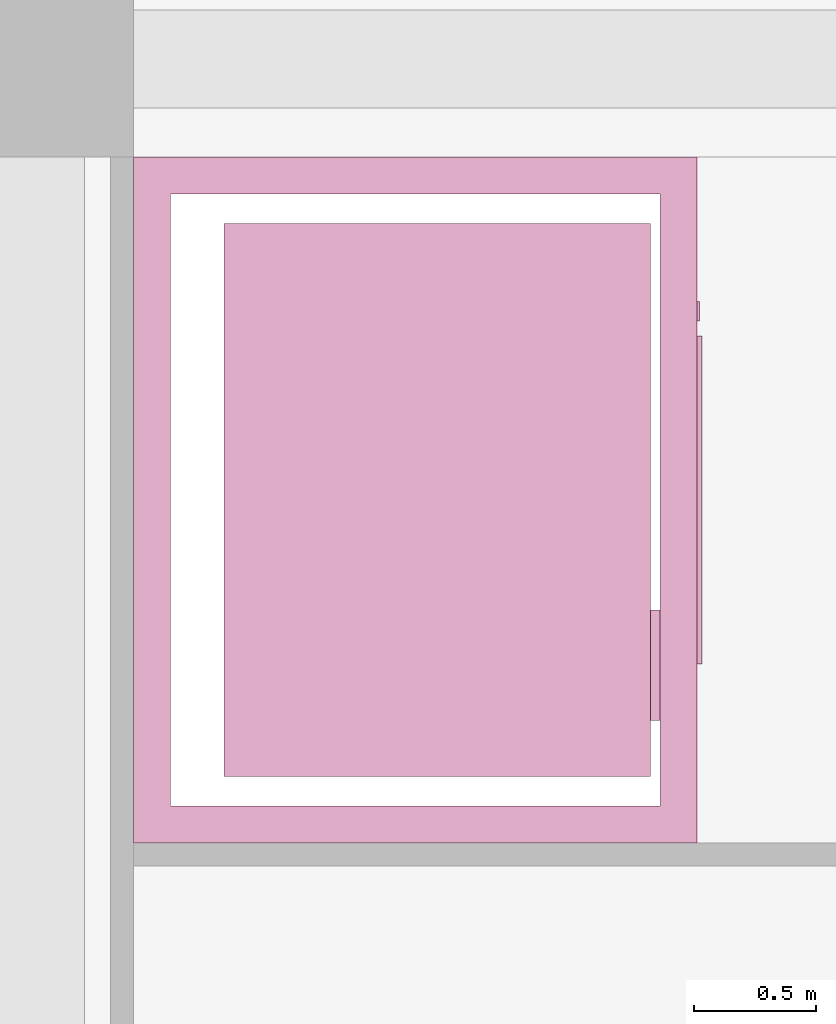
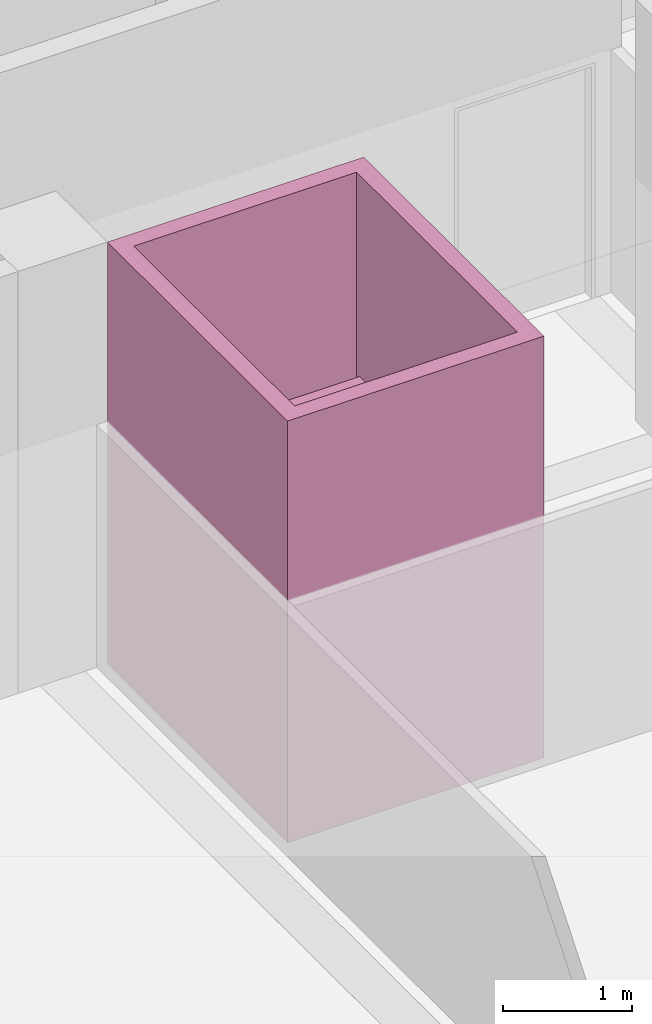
# One storey, part 9 of 14: 1 transport element.
"""IFC2X3 building model written with IfcOpenShell, lengths in millimetres."""

import ifcopenshell
import ifcopenshell.guid

model = None  # the IFC model being written
_history = None  # IfcOwnerHistory: only IFC2X3 demands one
_inside = {}  # id of a spatial element -> (the spatial element, [elements in it])
_under = {}  # id of a project, library or spatial element -> (it, [spatial elements below it])
_declared = {}  # id of a project -> (the project, [libraries it declares])
_typed = {}  # id of a type object -> (the type object, [elements of that type])
_made_of = {}  # id of a material, layer set ... -> (it, [elements and type objects made of it])


def new_model(schema):
    """Start an empty IFC model of exactly this schema.

    Asked for "IFC4X3", IfcOpenShell would pick the latest addendum, in which some entities
    have other attributes; the version numbers below select the first issue.
    IFC2X3 requires an IfcOwnerHistory on every rooted entity: one is made here for all.
    """
    global model, _history
    if schema == "IFC4X3":
        model = ifcopenshell.file(schema_version=(4, 3, 0, 0))
    else:
        model = ifcopenshell.file(schema=schema)
    _inside.clear()
    _under.clear()
    _declared.clear()
    _typed.clear()
    _made_of.clear()
    _history = None
    if model.schema == "IFC2X3":
        org = make("IfcOrganization", Name="unknown")
        user = make(
            "IfcPersonAndOrganization",
            ThePerson=make("IfcPerson", FamilyName="unknown"),
            TheOrganization=org,
        )
        app = make(
            "IfcApplication",
            ApplicationDeveloper=org,
            Version="unknown",
            ApplicationFullName="unknown",
            ApplicationIdentifier="unknown",
        )
        _history = make(
            "IfcOwnerHistory",
            OwningUser=user,
            OwningApplication=app,
            ChangeAction="ADDED",
            CreationDate=0,
        )
    return model


def make(cls, **values):
    """One entity of the class cls with the attributes given. An attribute that is None is left unset."""
    return model.create_entity(
        cls, **{name: value for name, value in values.items() if value is not None}
    )


def entity(cls, *values):
    """Any entity or typed value of the class cls, its attributes in the order of the schema. None: left unset."""
    e = model.create_entity(cls)
    for i, value in enumerate(values):
        if value is not None:
            e[i] = value
    return e


def rooted(cls, **values):
    """An entity with a GlobalId (a new one), such as an element, a storey or a relation."""
    return make(cls, GlobalId=ifcopenshell.guid.new(), OwnerHistory=_history, **values)


def si_unit(unit_type, name, prefix=None):
    """IfcSIUnit, for example si_unit("LENGTHUNIT", "METRE", prefix="MILLI")."""
    return make("IfcSIUnit", UnitType=unit_type, Prefix=prefix, Name=name)


def converted_unit(unit_type, name, factor, base, dimensions=None, offset=None):
    """IfcConversionBasedUnit, such as the inch: factor (a typed value) times the base unit."""
    return make(
        "IfcConversionBasedUnit"
        if offset is None
        else "IfcConversionBasedUnitWithOffset",
        ConversionOffset=offset,
        Dimensions=None
        if dimensions is None
        else entity("IfcDimensionalExponents", *dimensions),
        UnitType=unit_type,
        Name=name,
        ConversionFactor=make(
            "IfcMeasureWithUnit", ValueComponent=factor, UnitComponent=base
        ),
    )


def assignment(units):
    """IfcUnitAssignment: the units of a project."""
    return None if units is None else make("IfcUnitAssignment", Units=units)


def point(xyz):
    """IfcCartesianPoint."""
    return None if xyz is None else make("IfcCartesianPoint", Coordinates=xyz)


def direction(xyz):
    """IfcDirection."""
    return None if xyz is None else make("IfcDirection", DirectionRatios=xyz)


def frame(location, z_axis=None, x_axis=None):
    """IfcAxis2Placement3D, a coordinate frame: its origin and axes. An axis left out is left unset."""
    return make(
        "IfcAxis2Placement3D",
        Location=point(location),
        Axis=direction(z_axis),
        RefDirection=direction(x_axis),
    )


def origin_with_axes():
    """The frame at (0, 0, 0) with the z axis (0, 0, 1) and the x axis (1, 0, 0) written out."""
    return frame((0.0, 0.0, 0.0), z_axis=(0.0, 0.0, 1.0), x_axis=(1.0, 0.0, 0.0))


def place(relative_to, where):
    """IfcLocalPlacement: puts the frame where relative to a parent placement (None: the world)."""
    return make(
        "IfcLocalPlacement", PlacementRelTo=relative_to, RelativePlacement=where
    )


def context(
    kind, dimensions, precision=None, world=None, true_north=None, identifier=None
):
    """IfcGeometricRepresentationContext, for example the 3D "Model" context."""
    return make(
        "IfcGeometricRepresentationContext",
        ContextIdentifier=identifier,
        ContextType=kind,
        CoordinateSpaceDimension=dimensions,
        Precision=precision,
        WorldCoordinateSystem=world,
        TrueNorth=true_north,
    )


def project(units=None, contexts=None):
    """IfcProject with its units and contexts."""
    return rooted(
        "IfcProject",
        Name="project",
        RepresentationContexts=contexts,
        UnitsInContext=assignment(units),
    )


def spatial(cls, under=None, at=None, **own):
    """A site, building, storey or space (cls), placed at a placement, below another one or the project."""
    s = rooted(cls, ObjectPlacement=at, **own)
    if under is not None:
        _under.setdefault(under.id(), (under, []))[1].append(s)
    return s


def faces_of(points, faces, orient=None, outer=None):
    """IfcFace entities. A face is a list of loops; a loop is a list of indices into points, from 0.

    orient and outer hold one flag for each loop. By default every Orientation is true, the
    first loop of a face is its IfcFaceOuterBound and the others are IfcFaceBound.
    """
    made = []
    for i, loops in enumerate(faces):
        bounds = []
        for j, loop in enumerate(loops):
            is_outer = j == 0 if outer is None else outer[i][j]
            bounds.append(
                make(
                    "IfcFaceOuterBound" if is_outer else "IfcFaceBound",
                    Bound=make("IfcPolyLoop", Polygon=[points[k] for k in loop]),
                    Orientation=True if orient is None else orient[i][j],
                )
            )
        made.append(make("IfcFace", Bounds=bounds))
    return made


def faceted_brep(points, faces, orient=None, outer=None, voids=None):
    """IfcFacetedBrep: a solid bounded by flat faces; with voids (closed shells), ...WithVoids."""
    shared = [point(p) for p in points]
    hull = make("IfcClosedShell", CfsFaces=faces_of(shared, faces, orient, outer))
    if voids is None:
        return make("IfcFacetedBrep", Outer=hull)
    return make(
        "IfcFacetedBrepWithVoids",
        Outer=hull,
        Voids=[
            make(cls, CfsFaces=faces_of(shared, fs, o, b)) for cls, fs, o, b in voids
        ],
    )


def shape(context_of_items, identifier, shape_type, items):
    """IfcShapeRepresentation: the items that make up one representation, for example the "Body"."""
    return make(
        "IfcShapeRepresentation",
        ContextOfItems=context_of_items,
        RepresentationIdentifier=identifier,
        RepresentationType=shape_type,
        Items=items,
    )


def material(Name=None, Category=None):
    """IfcMaterial."""
    return make("IfcMaterial", Name=Name, Category=Category)


def made_of(thing, what):
    """Note that an element or type object is made of a material, layer set ...; save() writes the relation."""
    if what is not None:
        _made_of.setdefault(what.id(), (what, []))[1].append(thing)
    return thing


def element(
    cls,
    number,
    at=None,
    inside=None,
    cuts=None,
    type_object=None,
    material=None,
    context=None,
    identifier="Body",
    shape_type=None,
    held_by="IfcProductDefinitionShape",
    body=None,
    shapes=None,
    **own,
):
    """One element of the class cls, such as IfcWall. Its Tag is "e" and its number.

    at: its placement. inside: the storey or other place that contains it. cuts: it is an
    opening in that element (IfcRelVoidsElement). A single representation is given by context,
    identifier, shape_type and body (its items); several are given by shapes. held_by: the class
    of the entity that holds the representations. save() writes the other relations.
    """
    e = rooted(cls, Tag="e%d" % number, ObjectPlacement=at, **own)
    if body is not None:
        shapes = [shape(context, identifier, shape_type, body)]
    if shapes is not None:
        e.Representation = make(held_by, Representations=shapes)
    if inside is not None:
        _inside.setdefault(inside.id(), (inside, []))[1].append(e)
    if cuts is not None:
        rooted(
            "IfcRelVoidsElement", RelatingBuildingElement=cuts, RelatedOpeningElement=e
        )
    if type_object is not None:
        _typed.setdefault(type_object.id(), (type_object, []))[1].append(e)
    return made_of(e, material)


def aggregate(whole, parts):
    """IfcRelAggregates: a whole, such as a stair, and the parts it consists of."""
    return rooted("IfcRelAggregates", RelatingObject=whole, RelatedObjects=parts)


def save(model, path):
    """Write the relations noted so far, then the file.

    IfcRelAggregates (storeys below a building ...), IfcRelContainedInSpatialStructure (elements
    in a storey), IfcRelDefinesByType, IfcRelAssociatesMaterial and IfcRelDeclares: one each for
    every whole, place, type object, material and project.
    """
    for whole, parts in _under.values():
        aggregate(whole, parts)
    for where, things in _inside.values():
        rooted(
            "IfcRelContainedInSpatialStructure",
            RelatedElements=things,
            RelatingStructure=where,
        )
    for kind, things in _typed.values():
        rooted("IfcRelDefinesByType", RelatedObjects=things, RelatingType=kind)
    for what, things in _made_of.values():
        rooted("IfcRelAssociatesMaterial", RelatedObjects=things, RelatingMaterial=what)
    for by, libraries in _declared.values():
        rooted("IfcRelDeclares", RelatingContext=by, RelatedDefinitions=libraries)
    model.write(path)


model = new_model("IFC2X3")

# Units and contexts
model_context = context("Model", 3, precision=1e-05, world=origin_with_axes(), true_north=direction((0.0, 1.0)))
ifc_project = project(units=[si_unit("LENGTHUNIT", "METRE", prefix="MILLI"), si_unit("AREAUNIT", "SQUARE_METRE"), si_unit("VOLUMEUNIT", "CUBIC_METRE"), converted_unit("PLANEANGLEUNIT", "DEGREE", entity("IfcPlaneAngleMeasure", 0.017453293), si_unit("PLANEANGLEUNIT", "RADIAN"), dimensions=[0, 0, 0, 0, 0, 0, 0]), si_unit("SOLIDANGLEUNIT", "STERADIAN"), si_unit("MASSUNIT", "GRAM"), si_unit("TIMEUNIT", "SECOND"), si_unit("THERMODYNAMICTEMPERATUREUNIT", "DEGREE_CELSIUS"), si_unit("LUMINOUSINTENSITYUNIT", "LUMEN")], contexts=[model_context])

# Site, building, storey
site_placement = place(None, origin_with_axes())
site = spatial("IfcSite", under=ifc_project, at=site_placement, Name="\x83T\x83C\x83g", CompositionType="ELEMENT")
building_placement = place(site_placement, origin_with_axes())
building = spatial("IfcBuilding", under=site, at=building_placement, Name="Daitec-Sample 201208", CompositionType="ELEMENT")
storey_placement = place(building_placement, frame((0.0, 0.0, 8000.0), z_axis=(0.0, 0.0, 1.0), x_axis=(1.0, 0.0, 0.0)))
storey = spatial("IfcBuildingStorey", under=building, at=storey_placement, Name="3F", CompositionType="ELEMENT", Elevation=8000.0)

# Transport element
ifc_material = material(Name="\x94w\x8ci")
transport_element_placement = place(storey_placement, frame((27200.0, 15200.0, 0.0), z_axis=(0.0, 0.0, 1.0), x_axis=(0.0, 1.0, 0.0)))
element("IfcTransportElement", 1, at=transport_element_placement, inside=storey, material=ifc_material, Name="O1", OperationType="NOTDEFINED", context=model_context, shape_type="Brep", body=[
    faceted_brep([(950.0, 210.0, 0.0), (500.0, 210.0, 0.0), (500.0, 210.0, 2000.0), (950.0, 210.0, 2000.0), (950.0, 190.0, 0.0), (500.0, 190.0, 0.0), (500.0, 190.0, 2000.0), (950.0, 190.0, 2000.0)], [[[0, 1, 2, 3]], [[1, 0, 4, 5]], [[2, 1, 5, 6]], [[3, 2, 6, 7]], [[0, 3, 7, 4]], [[5, 4, 7, 6]]]),
    faceted_brep([(950.0, 230.0, 0.0), (500.0, 230.0, 0.0), (500.0, 230.0, 2000.0), (950.0, 230.0, 2000.0), (950.0, 210.0, 0.0), (500.0, 210.0, 0.0), (500.0, 210.0, 2000.0), (950.0, 210.0, 2000.0)], [[[0, 1, 2, 3]], [[1, 0, 4, 5]], [[2, 1, 5, 6]], [[3, 2, 6, 7]], [[0, 3, 7, 4]], [[5, 4, 7, 6]]]),
    faceted_brep([(350.0, 270.0, 0.0), (950.0, 270.0, 0.0), (950.0, 230.0, 0.0), (500.0, 230.0, 0.0), (500.0, 190.0, 0.0), (270.0, 190.0, 0.0), (270.0, 1930.0, 0.0), (2530.0, 1930.0, 0.0), (2530.0, 190.0, 0.0), (1850.0, 190.0, 0.0), (1850.0, 270.0, 0.0), (2450.0, 270.0, 0.0), (2450.0, 1850.0, 0.0), (350.0, 1850.0, 0.0), (350.0, 270.0, 2100.0), (2450.0, 270.0, 2100.0), (1850.0, 270.0, 2000.0), (950.0, 270.0, 2000.0), (950.0, 230.0, 2000.0), (500.0, 230.0, 2000.0), (500.0, 190.0, 2000.0), (1850.0, 190.0, 2000.0), (2530.0, 190.0, 2100.0), (270.0, 190.0, 2100.0), (270.0, 1930.0, 2100.0), (2530.0, 1930.0, 2100.0), (2450.0, 1850.0, 2100.0), (350.0, 1850.0, 2100.0)], [[[0, 1, 2, 3, 4, 5, 6, 7, 8, 9, 10, 11, 12, 13]], [[14, 15, 11, 10, 16, 17, 1, 0]], [[1, 17, 18, 2]], [[3, 2, 18, 19]], [[3, 19, 20, 4]], [[20, 21, 9, 8, 22, 23, 5, 4]], [[5, 23, 24, 6]], [[6, 24, 25, 7]], [[7, 25, 22, 8]], [[16, 10, 9, 21]], [[15, 26, 12, 11]], [[26, 27, 13, 12]], [[27, 14, 0, 13]], [[22, 25, 24, 23], [27, 26, 15, 14]], [[17, 16, 21, 20, 19, 18]]]),
    faceted_brep([(270.0, 190.0, -50.0), (2530.0, 190.0, -50.0), (2530.0, 190.0, 0.0), (270.0, 190.0, 0.0), (270.0, 1930.0, -50.0), (2530.0, 1930.0, -50.0), (2530.0, 1930.0, 0.0), (270.0, 1930.0, 0.0)], [[[0, 1, 2, 3]], [[0, 4, 5, 1]], [[1, 5, 6, 2]], [[3, 2, 6, 7]], [[4, 0, 3, 7]], [[5, 4, 7, 6]]]),
    faceted_brep([(270.0, 190.0, 2100.0), (2530.0, 190.0, 2100.0), (2530.0, 190.0, 2150.0), (270.0, 190.0, 2150.0), (270.0, 1930.0, 2100.0), (2530.0, 1930.0, 2100.0), (2530.0, 1930.0, 2150.0), (270.0, 1930.0, 2150.0)], [[[0, 1, 2, 3]], [[0, 4, 5, 1]], [[1, 5, 6, 2]], [[3, 2, 6, 7]], [[4, 0, 3, 7]], [[5, 4, 7, 6]]]),
    faceted_brep([(2450.0, 370.0, 1000.0), (2450.0, 470.0, 1000.0), (2450.0, 470.0, 1075.0), (2450.0, 370.0, 1075.0), (2440.0, 370.0, 1000.0), (2440.0, 470.0, 1000.0), (2440.0, 470.0, 1075.0), (2440.0, 370.0, 1075.0)], [[[0, 1, 2, 3]], [[1, 0, 4, 5]], [[2, 1, 5, 6]], [[3, 2, 6, 7]], [[0, 3, 7, 4]], [[5, 4, 7, 6]]]),
    faceted_brep([(2440.0, 450.42893, 1005.4289), (2440.0, 450.42893, 1019.5711), (2435.0, 451.84315, 1018.1569), (2435.0, 451.84315, 1006.8431), (2440.0, 464.57107, 1005.4289), (2440.0, 464.57107, 1019.5711), (2435.0, 463.15685, 1018.1569), (2435.0, 463.15685, 1006.8431)], [[[0, 1, 2, 3]], [[0, 4, 5, 1]], [[1, 5, 6, 2]], [[3, 2, 6, 7]], [[4, 0, 3, 7]], [[5, 4, 7, 6]]]),
    faceted_brep([(2440.0, 425.42893, 1005.4289), (2440.0, 425.42893, 1019.5711), (2435.0, 426.84315, 1018.1569), (2435.0, 426.84315, 1006.8431), (2440.0, 439.57107, 1005.4289), (2440.0, 439.57107, 1019.5711), (2435.0, 438.15685, 1018.1569), (2435.0, 438.15685, 1006.8431)], [[[0, 1, 2, 3]], [[0, 4, 5, 1]], [[1, 5, 6, 2]], [[3, 2, 6, 7]], [[4, 0, 3, 7]], [[5, 4, 7, 6]]]),
    faceted_brep([(2440.0, 400.42893, 1005.4289), (2440.0, 400.42893, 1019.5711), (2435.0, 401.84315, 1018.1569), (2435.0, 401.84315, 1006.8431), (2440.0, 414.57107, 1005.4289), (2440.0, 414.57107, 1019.5711), (2435.0, 413.15685, 1018.1569), (2435.0, 413.15685, 1006.8431)], [[[0, 1, 2, 3]], [[0, 4, 5, 1]], [[1, 5, 6, 2]], [[3, 2, 6, 7]], [[4, 0, 3, 7]], [[5, 4, 7, 6]]]),
    faceted_brep([(2440.0, 375.42893, 1005.4289), (2440.0, 375.42893, 1019.5711), (2435.0, 376.84315, 1018.1569), (2435.0, 376.84315, 1006.8431), (2440.0, 389.57107, 1005.4289), (2440.0, 389.57107, 1019.5711), (2435.0, 388.15685, 1018.1569), (2435.0, 388.15685, 1006.8431)], [[[0, 1, 2, 3]], [[0, 4, 5, 1]], [[1, 5, 6, 2]], [[3, 2, 6, 7]], [[4, 0, 3, 7]], [[5, 4, 7, 6]]]),
    faceted_brep([(2440.0, 450.42893, 1055.4289), (2440.0, 450.42893, 1069.5711), (2435.0, 451.84315, 1068.1569), (2435.0, 451.84315, 1056.8431), (2440.0, 464.57107, 1055.4289), (2440.0, 464.57107, 1069.5711), (2435.0, 463.15685, 1068.1569), (2435.0, 463.15685, 1056.8431)], [[[0, 1, 2, 3]], [[0, 4, 5, 1]], [[1, 5, 6, 2]], [[3, 2, 6, 7]], [[4, 0, 3, 7]], [[5, 4, 7, 6]]]),
    faceted_brep([(770.0, 150.0, 0.0), (950.0, 150.0, 0.0), (950.0, 90.0, 0.0), (770.0, 90.0, 0.0), (770.0, 150.0, 2180.0), (2030.0, 150.0, 2180.0), (2030.0, 150.0, 0.0), (1850.0, 150.0, 0.0), (1850.0, 150.0, 2000.0), (950.0, 150.0, 2000.0), (950.0, 90.0, 2000.0), (1850.0, 90.0, 2000.0), (1850.0, 90.0, 0.0), (2030.0, 90.0, 0.0), (2030.0, 90.0, 2180.0), (770.0, 90.0, 2180.0)], [[[0, 1, 2, 3]], [[0, 4, 5, 6, 7, 8, 9, 1]], [[1, 9, 10, 2]], [[3, 2, 10, 11, 12, 13, 14, 15]], [[4, 0, 3, 15]], [[5, 4, 15, 14]], [[6, 5, 14, 13]], [[7, 6, 13, 12]], [[8, 7, 12, 11]], [[9, 8, 11, 10]]]),
    faceted_brep([(770.0, 90.0, 0.0), (790.0, 90.0, 0.0), (790.0, 0.0, 0.0), (770.0, 0.0, 0.0), (770.0, 90.0, 2180.0), (2030.0, 90.0, 2180.0), (2030.0, 90.0, 0.0), (2010.0, 90.0, 0.0), (2010.0, 90.0, 2160.0), (790.0, 90.0, 2160.0), (790.0, 0.0, 2160.0), (2010.0, 0.0, 2160.0), (2010.0, 0.0, 0.0), (2030.0, 0.0, 0.0), (2030.0, 0.0, 2180.0), (770.0, 0.0, 2180.0)], [[[0, 1, 2, 3]], [[0, 4, 5, 6, 7, 8, 9, 1]], [[1, 9, 10, 2]], [[3, 2, 10, 11, 12, 13, 14, 15]], [[4, 0, 3, 15]], [[5, 4, 15, 14]], [[6, 5, 14, 13]], [[7, 6, 13, 12]], [[8, 7, 12, 11]], [[9, 8, 11, 10]]]),
    faceted_brep([(730.0, 0.0, 0.0), (790.0, 0.0, 0.0), (790.0, -20.0, 0.0), (730.0, -20.0, 0.0), (730.0, 0.0, 2220.0), (2070.0, 0.0, 2220.0), (2070.0, 0.0, 0.0), (2010.0, 0.0, 0.0), (2010.0, 0.0, 2160.0), (790.0, 0.0, 2160.0), (790.0, -20.0, 2160.0), (2010.0, -20.0, 2160.0), (2010.0, -20.0, 0.0), (2070.0, -20.0, 0.0), (2070.0, -20.0, 2220.0), (730.0, -20.0, 2220.0)], [[[0, 1, 2, 3]], [[0, 4, 5, 6, 7, 8, 9, 1]], [[1, 9, 10, 2]], [[3, 2, 10, 11, 12, 13, 14, 15]], [[4, 0, 3, 15]], [[5, 4, 15, 14]], [[6, 5, 14, 13]], [[7, 6, 13, 12]], [[8, 7, 12, 11]], [[9, 8, 11, 10]]]),
    faceted_brep([(950.0, 170.0, 0.0), (500.0, 170.0, 0.0), (500.0, 170.0, 2000.0), (950.0, 170.0, 2000.0), (950.0, 150.0, 0.0), (500.0, 150.0, 0.0), (500.0, 150.0, 2000.0), (950.0, 150.0, 2000.0)], [[[0, 1, 2, 3]], [[1, 0, 4, 5]], [[2, 1, 5, 6]], [[3, 2, 6, 7]], [[0, 3, 7, 4]], [[5, 4, 7, 6]]]),
    faceted_brep([(950.0, 190.0, 0.0), (500.0, 190.0, 0.0), (500.0, 190.0, 2000.0), (950.0, 190.0, 2000.0), (950.0, 170.0, 0.0), (500.0, 170.0, 0.0), (500.0, 170.0, 2000.0), (950.0, 170.0, 2000.0)], [[[0, 1, 2, 3]], [[1, 0, 4, 5]], [[2, 1, 5, 6]], [[3, 2, 6, 7]], [[0, 3, 7, 4]], [[5, 4, 7, 6]]]),
    faceted_brep([(2210.0, 0.0, 1000.0), (2130.0, 0.0, 1000.0), (2130.0, 0.0, 1100.0), (2210.0, 0.0, 1100.0), (2210.0, -10.0, 1000.0), (2130.0, -10.0, 1000.0), (2130.0, -10.0, 1100.0), (2210.0, -10.0, 1100.0)], [[[0, 1, 2, 3]], [[1, 0, 4, 5]], [[2, 1, 5, 6]], [[3, 2, 6, 7]], [[0, 3, 7, 4]], [[5, 4, 7, 6]]]),
    faceted_brep([(150.0, 150.0, 0.0), (770.0, 150.0, 0.0), (770.0, 0.0, 0.0), (0.0, 0.0, 0.0), (0.0, 2300.0, 0.0), (2800.0, 2300.0, 0.0), (2800.0, 0.0, 0.0), (2030.0, 0.0, 0.0), (2030.0, 150.0, 0.0), (2650.0, 150.0, 0.0), (2650.0, 2150.0, 0.0), (150.0, 2150.0, 0.0), (150.0, 150.0, 4000.0), (2650.0, 150.0, 4000.0), (2030.0, 150.0, 2180.0), (770.0, 150.0, 2180.0), (770.0, 0.0, 2180.0), (2030.0, 0.0, 2180.0), (2800.0, 0.0, 4000.0), (0.0, 0.0, 4000.0), (0.0, 2300.0, 4000.0), (2800.0, 2300.0, 4000.0), (2650.0, 2150.0, 4000.0), (150.0, 2150.0, 4000.0)], [[[0, 1, 2, 3, 4, 5, 6, 7, 8, 9, 10, 11]], [[12, 13, 9, 8, 14, 15, 1, 0]], [[1, 15, 16, 2]], [[3, 2, 16, 17, 7, 6, 18, 19]], [[19, 20, 4, 3]], [[20, 21, 5, 4]], [[21, 18, 6, 5]], [[14, 8, 7, 17]], [[13, 22, 10, 9]], [[22, 23, 11, 10]], [[23, 12, 0, 11]], [[21, 20, 19, 18], [23, 22, 13, 12]], [[15, 14, 17, 16]]]),
])

save(model, "model.ifc")
